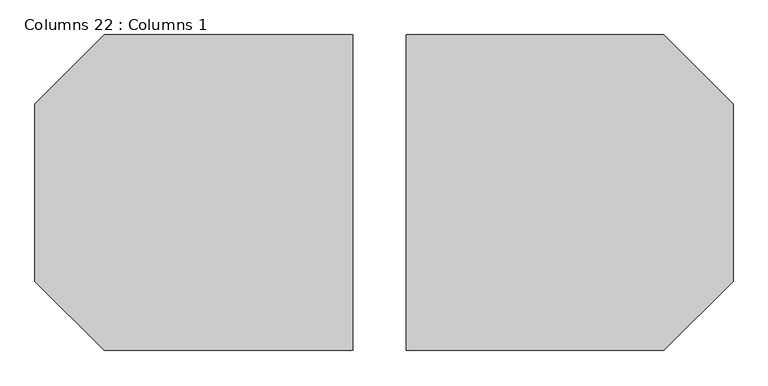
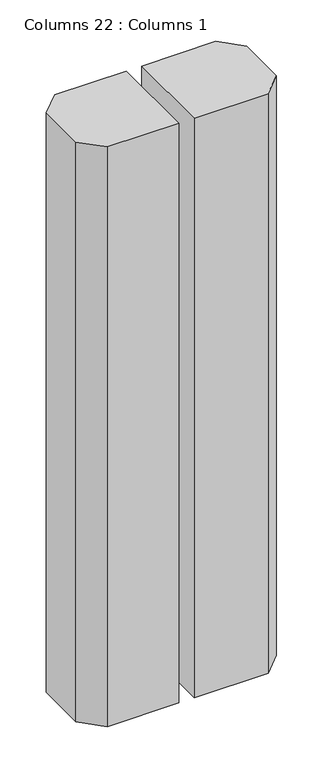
"""IFC4 building model written with IfcOpenShell, lengths in millimetres: column geometry, Columns 22 : Columns 1."""

from ifc_helpers import new_model, si_unit, origin, origin_with_axes, place, context, project, spatial, polyline, outline, extrude, source, transform, mapped, element, save


def columns_22_columns_1_6d6d6978(model_context):
    return source(origin(), model_context, "Body", "SweptSolid", [
        extrude(outline(polyline([(-18047.4616734, 111042.9418364), (-18403.0616734, 111042.9418364), (-18501.8444907, 111141.7246538), (-18501.8444907, 111395.7246538), (-18403.0616734, 111494.5074711), (-18047.4616734, 111494.5074711), (-18047.4616734, 111042.9418364)])), origin_with_axes(), (0.0, 0.0, 1.0), 3048.0),
        extrude(outline(polyline([(-17504.1788561, 111141.7246538), (-17602.9616734, 111042.9418364), (-17971.2616734, 111042.9418364), (-17971.2616734, 111494.5074711), (-17602.9616734, 111494.5074711), (-17504.1788561, 111395.7246538), (-17504.1788561, 111141.7246538)])), origin_with_axes(), (0.0, 0.0, 1.0), 3048.0),
    ])


if __name__ == "__main__":
    model = new_model("IFC4")
    model_context = context("Model", 3, world=origin())
    ifc_project = project(units=[si_unit("LENGTHUNIT", "METRE", prefix="MILLI")], contexts=[model_context])
    site = spatial("IfcSite", under=ifc_project)
    building = spatial("IfcBuilding", under=site)
    placement = place(None, origin())
    columns_22_columns_1_shape = columns_22_columns_1_6d6d6978(model_context)
    element("IfcColumn", 1, ObjectType="Columns 22 : Columns 1", at=placement, inside=building, context=model_context, shape_type="MappedRepresentation", body=[
        mapped(columns_22_columns_1_shape, transform((0.0, 0.0, 0.0), x_axis=(1.0, 0.0, 0.0), y_axis=(0.0, 1.0, 0.0), z_axis=(0.0, 0.0, 1.0))),
    ])
    save(model, "model.ifc")
